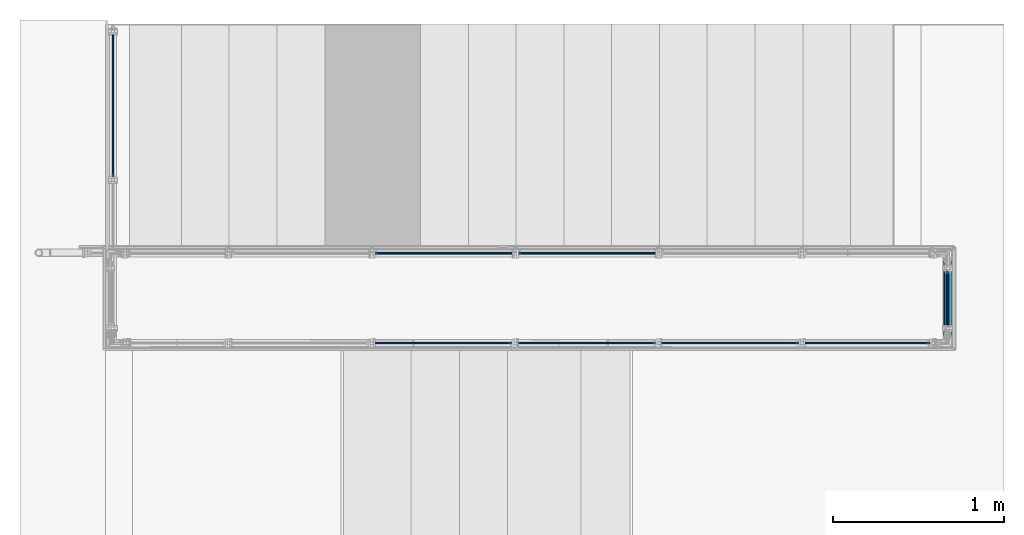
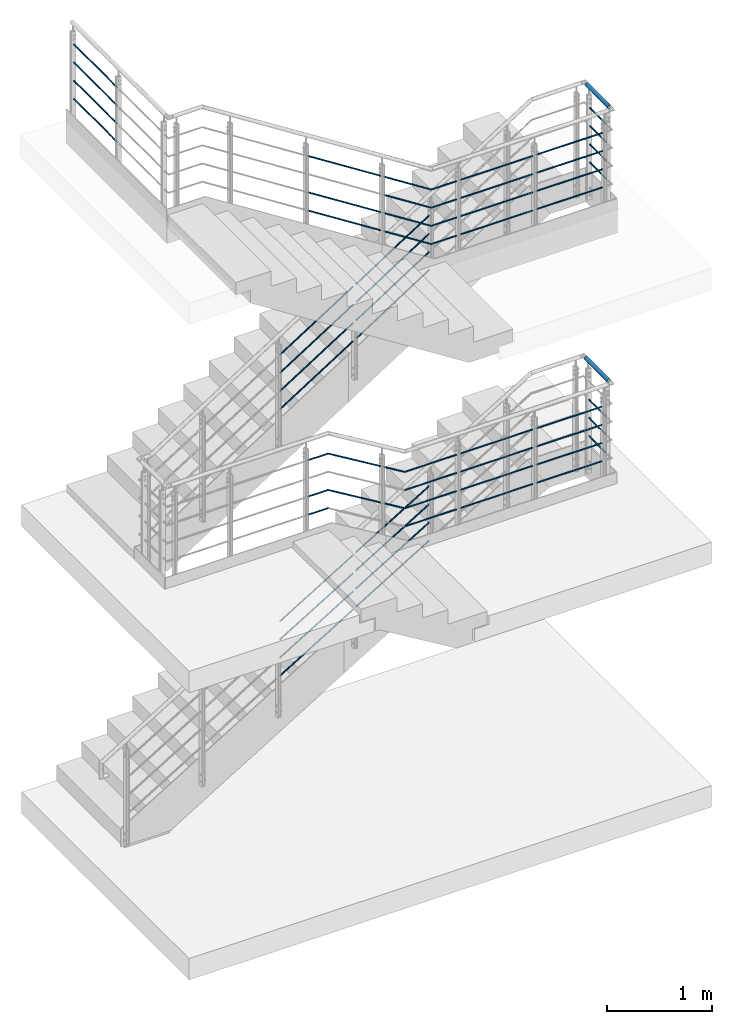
# One storey, part 13 of 98: 40 beams, 27 members.
"""IFC2X3 building model written with IfcOpenShell, lengths in millimetres."""

from ifc_helpers import new_model, entity, si_unit, converted_unit, frame, origin, origin_with_axes, origin_2d, place, context, project, spatial, circle, hollow_circle, extrude, clip, halfspace, material, element, save


model = new_model("IFC2X3")

# Units and contexts
model_context = context("Model", 3, precision=1e-09, world=origin_with_axes())
ifc_project = project(units=[si_unit("LENGTHUNIT", "METRE", prefix="MILLI"), si_unit("AREAUNIT", "SQUARE_METRE"), si_unit("VOLUMEUNIT", "CUBIC_METRE"), converted_unit("PLANEANGLEUNIT", "DEGREE", entity("IfcPlaneAngleMeasure", 0.01745329), si_unit("PLANEANGLEUNIT", "RADIAN"), dimensions=[0, 0, 0, 0, 0, 0, 0])], contexts=[model_context])

# Site, building, storey
site_placement = place(None, origin_with_axes())
site = spatial("IfcSite", under=ifc_project, at=site_placement, Name="Maybachstra?e 2, 71563 Affalterbach", CompositionType="ELEMENT")
building_placement = place(site_placement, origin_with_axes())
building = spatial("IfcBuilding", under=site, at=building_placement, Name="Struktur 1", CompositionType="ELEMENT")
storey_placement = place(building_placement, origin_with_axes())
storey = spatial("IfcBuildingStorey", under=building, at=storey_placement, Name="Default Storey", CompositionType="ELEMENT", Elevation=0.0)

# Beams
ifc_material_1 = material(Name="S235JR")
beam_1_placement = place(None, frame((7338.029157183, 1238.75, 8323.799999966), z_axis=(0.0, 1.0, 0.0), x_axis=(0.0, 0.0, 1.0)))
element("IfcBeam", 1, at=beam_1_placement, inside=storey, material=ifc_material_1, Name="-", ObjectType="-", context=model_context, shape_type="SweptSolid", body=[
    extrude(circle(Radius=6.0, at=origin_2d()), origin(), (0.0, 0.0, -1.0), 833.5),
])
beam_2_placement = place(None, frame((12231.032157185, -150.25, 6711.3), z_axis=(0.0, 1.0, 0.0), x_axis=(0.0, 0.0, 1.0)))
element("IfcBeam", 2, at=beam_2_placement, inside=storey, material=ifc_material_1, Name="-", ObjectType="-", context=model_context, shape_type="SweptSolid", body=[
    extrude(circle(Radius=6.0, at=origin_2d()), origin(), (0.0, 0.0, -1.0), 314.5),
])
beam_3_placement = place(None, frame((12224.032157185, -145.25, 3518.8), z_axis=(0.0, 1.0, 0.0), x_axis=(0.0, 0.0, 1.0)))
element("IfcBeam", 3, at=beam_3_placement, inside=storey, material=ifc_material_1, Name="-", ObjectType="-", context=model_context, shape_type="SweptSolid", body=[
    extrude(circle(Radius=6.0, at=origin_2d()), origin(), (0.0, 0.0, -1.0), 318.5),
])
beam_4_placement = place(None, frame((9936.320994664, -569.0, 3518.8), z_axis=(-1.0, 0.0, 0.0), x_axis=(0.0, 0.0, -1.0)))
element("IfcBeam", 4, at=beam_4_placement, inside=storey, material=ifc_material_1, Name="-", ObjectType="-", context=model_context, shape_type="Clipping", body=[
    clip(extrude(circle(Radius=6.0, at=origin_2d()), origin(), (0.0, 0.0, -1.0), 580.458162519), halfspace(frame((5833.433708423, -569.0, 1613.511984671), z_axis=(0.267938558, 0.0, -0.963436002), x_axis=(0.0, -1.0, 0.0)), True)),
])
beam_5_placement = place(None, frame((10553.279157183, -569.0, 3518.8), z_axis=(-1.0, 0.0, 0.0), x_axis=(0.0, 0.0, -1.0)))
element("IfcBeam", 5, at=beam_5_placement, inside=storey, material=ifc_material_1, Name="-", ObjectType="-", context=model_context, shape_type="SweptSolid", body=[
    extrude(circle(Radius=6.0, at=origin_2d()), origin(), (0.0, 0.0, -1.0), 803.5),
])
beam_6_placement = place(None, frame((11393.279157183, -569.0, 3518.8), z_axis=(-1.0, 0.0, 0.0), x_axis=(0.0, 0.0, -1.0)))
element("IfcBeam", 6, at=beam_6_placement, inside=storey, material=ifc_material_1, Name="-", ObjectType="-", context=model_context, shape_type="SweptSolid", body=[
    extrude(circle(Radius=6.0, at=origin_2d()), origin(), (0.0, 0.0, -1.0), 725.5),
])
beam_7_placement = place(None, frame((10553.279157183, -570.0, 6711.3), z_axis=(-1.0, 0.0, 0.0), x_axis=(0.0, 0.0, -1.0)))
element("IfcBeam", 7, at=beam_7_placement, inside=storey, material=ifc_material_1, Name="-", ObjectType="-", context=model_context, shape_type="SweptSolid", body=[
    extrude(circle(Radius=6.0, at=origin_2d()), origin(), (0.0, 0.0, -1.0), 803.5),
])
beam_8_placement = place(None, frame((11393.279157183, -570.0, 6711.3), z_axis=(-1.0, 0.0, 0.0), x_axis=(0.0, 0.0, -1.0)))
element("IfcBeam", 8, at=beam_8_placement, inside=storey, material=ifc_material_1, Name="-", ObjectType="-", context=model_context, shape_type="SweptSolid", body=[
    extrude(circle(Radius=6.0, at=origin_2d()), origin(), (0.0, 0.0, -1.0), 732.5),
])

# Members
member_1_placement = place(None, frame((10525.264438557, -40.0, 2836.867125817), z_axis=(0.854279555, 0.0, 0.519813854), x_axis=(0.0, 1.0, 0.0)))
element("IfcMember", 9, at=member_1_placement, inside=storey, material=ifc_material_1, Name="-", ObjectType="-", context=model_context, shape_type="Clipping", body=[
    clip(clip(extrude(circle(Radius=6.0, at=origin_2d()), origin(), (0.0, 0.0, -1.0), 960.423971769), halfspace(frame((40.0, -2419.066297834, -1481.892490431), z_axis=(0.0, 0.519813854, -0.854279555), x_axis=(-1.0, 0.0, 0.0)), True)), halfspace(frame((40.0, -2001.396905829, -2168.304403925), z_axis=(0.0, -0.519813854, 0.854279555), x_axis=(1.0, 0.0, 0.0)), True)),
])
member_2_placement = place(None, frame((9685.264438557, -40.0, 2325.742125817), z_axis=(0.854279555, 0.0, 0.519813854), x_axis=(0.0, 1.0, 0.0)))
element("IfcMember", 10, at=member_2_placement, inside=storey, material=ifc_material_1, Name="-", ObjectType="-", context=model_context, shape_type="Clipping", body=[
    clip(clip(extrude(circle(Radius=6.0, at=origin_2d()), origin(), (0.0, 0.0, -1.0), 960.423971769), halfspace(frame((40.0, -1982.422660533, -1216.202634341), z_axis=(0.0, 0.519813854, -0.854279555), x_axis=(-1.0, 0.0, 0.0)), True)), halfspace(frame((40.0, -1564.753268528, -1902.614547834), z_axis=(0.0, -0.519813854, 0.854279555), x_axis=(1.0, 0.0, 0.0)), True)),
])
member_3_placement = place(None, frame((8864.793875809, -45.0, 4938.496691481), z_axis=(-0.843537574, 0.0, -0.537070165), x_axis=(0.0, -1.0, 0.0)))
element("IfcMember", 11, at=member_3_placement, inside=storey, material=ifc_material_1, Name="-", ObjectType="-", context=model_context, shape_type="Clipping", body=[
    clip(clip(extrude(circle(Radius=6.0, at=origin_2d()), origin(), (0.0, 0.0, -1.0), 972.654435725), halfspace(frame((-45.0, -4601.900048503, 1967.379980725), z_axis=(0.0, 0.537070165, 0.843537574), x_axis=(1.0, 0.0, 0.0)), True)), halfspace(frame((-45.0, -4170.365245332, 2645.160734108), z_axis=(0.0, -0.537070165, -0.843537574), x_axis=(-1.0, 0.0, 0.0)), True)),
])
member_4_placement = place(None, frame((9704.793875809, -45.0, 5473.314525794), z_axis=(-0.843537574, 0.0, -0.537070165), x_axis=(0.0, -1.0, 0.0)))
element("IfcMember", 12, at=member_4_placement, inside=storey, material=ifc_material_1, Name="-", ObjectType="-", context=model_context, shape_type="Clipping", body=[
    clip(clip(extrude(circle(Radius=6.0, at=origin_2d()), origin(), (0.0, 0.0, -1.0), 972.654435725), halfspace(frame((-45.0, -5053.038986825, 2254.614683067), z_axis=(0.0, 0.537070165, 0.843537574), x_axis=(1.0, 0.0, 0.0)), True)), halfspace(frame((-45.0, -4621.504183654, 2932.39543645), z_axis=(0.0, -0.537070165, -0.843537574), x_axis=(-1.0, 0.0, 0.0)), True)),
])
member_5_placement = place(None, frame((9704.793875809, -570.0, 7050.566188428), z_axis=(-0.843071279, 0.0, 0.53780184), x_axis=(-0.53780184, 0.0, -0.843071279)))
element("IfcMember", 13, at=member_5_placement, inside=storey, material=ifc_material_1, Name="-", ObjectType="-", context=model_context, shape_type="Clipping", body=[
    clip(clip(extrude(circle(Radius=6.0, at=origin_2d()), origin(), (0.0, 0.0, -1.0), 639.67779714), halfspace(frame((8937.343206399, -570.0, -3238.723520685), z_axis=(0.280114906, 0.0, 0.959966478), x_axis=(0.0, 1.0, 0.0)), True)), halfspace(frame((5939.565916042, -570.0, -3798.962006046), z_axis=(-0.53780184, 0.0, -0.843071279), x_axis=(0.0, -1.0, 0.0)), True)),
])

# Beams
beam_9_placement = place(None, frame((10227.796683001, -570.0, 6711.3), z_axis=(-1.0, 0.0, 0.0), x_axis=(0.0, 0.0, -1.0)))
element("IfcBeam", 14, at=beam_9_placement, inside=storey, material=ifc_material_1, Name="-", ObjectType="-", context=model_context, shape_type="Clipping", body=[
    clip(extrude(circle(Radius=6.0, at=origin_2d()), origin(), (0.0, 0.0, -1.0), 288.982474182), halfspace(frame((8937.343206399, -570.0, 2599.045723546), z_axis=(0.280114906, 0.0, -0.959966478), x_axis=(0.0, -1.0, 0.0)), True)),
])
beam_10_placement = place(None, frame((7338.029157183, 1238.75, 7899.799999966), z_axis=(0.0, 1.0, 0.0), x_axis=(0.0, 0.0, 1.0)))
element("IfcBeam", 15, at=beam_10_placement, inside=storey, material=ifc_material_1, Name="-", ObjectType="-", context=model_context, shape_type="SweptSolid", body=[
    extrude(circle(Radius=6.0, at=origin_2d()), origin(), (0.0, 0.0, -1.0), 833.5),
])
beam_11_placement = place(None, frame((12231.032157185, -150.25, 6287.3), z_axis=(0.0, 1.0, 0.0), x_axis=(0.0, 0.0, 1.0)))
element("IfcBeam", 16, at=beam_11_placement, inside=storey, material=ifc_material_1, Name="-", ObjectType="-", context=model_context, shape_type="SweptSolid", body=[
    extrude(circle(Radius=6.0, at=origin_2d()), origin(), (0.0, 0.0, -1.0), 314.5),
])
beam_12_placement = place(None, frame((12224.032157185, -145.25, 3094.8), z_axis=(0.0, 1.0, 0.0), x_axis=(0.0, 0.0, 1.0)))
element("IfcBeam", 17, at=beam_12_placement, inside=storey, material=ifc_material_1, Name="-", ObjectType="-", context=model_context, shape_type="SweptSolid", body=[
    extrude(circle(Radius=6.0, at=origin_2d()), origin(), (0.0, 0.0, -1.0), 318.5),
])
beam_13_placement = place(None, frame((9936.320994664, -569.0, 3094.8), z_axis=(-1.0, 0.0, 0.0), x_axis=(0.0, 0.0, -1.0)))
element("IfcBeam", 18, at=beam_13_placement, inside=storey, material=ifc_material_1, Name="-", ObjectType="-", context=model_context, shape_type="Clipping", body=[
    clip(extrude(circle(Radius=6.0, at=origin_2d()), origin(), (0.0, 0.0, -1.0), 580.458162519), halfspace(frame((5439.873122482, -569.0, 1504.059923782), z_axis=(0.267938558, 0.0, -0.963436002), x_axis=(0.0, -1.0, 0.0)), True)),
])
beam_14_placement = place(None, frame((10553.279157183, -569.0, 3094.8), z_axis=(-1.0, 0.0, 0.0), x_axis=(0.0, 0.0, -1.0)))
element("IfcBeam", 19, at=beam_14_placement, inside=storey, material=ifc_material_1, Name="-", ObjectType="-", context=model_context, shape_type="SweptSolid", body=[
    extrude(circle(Radius=6.0, at=origin_2d()), origin(), (0.0, 0.0, -1.0), 803.5),
])
beam_15_placement = place(None, frame((11393.279157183, -569.0, 3094.8), z_axis=(-1.0, 0.0, 0.0), x_axis=(0.0, 0.0, -1.0)))
element("IfcBeam", 20, at=beam_15_placement, inside=storey, material=ifc_material_1, Name="-", ObjectType="-", context=model_context, shape_type="SweptSolid", body=[
    extrude(circle(Radius=6.0, at=origin_2d()), origin(), (0.0, 0.0, -1.0), 725.5),
])
beam_16_placement = place(None, frame((10553.279157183, -570.0, 6287.3), z_axis=(-1.0, 0.0, 0.0), x_axis=(0.0, 0.0, -1.0)))
element("IfcBeam", 21, at=beam_16_placement, inside=storey, material=ifc_material_1, Name="-", ObjectType="-", context=model_context, shape_type="SweptSolid", body=[
    extrude(circle(Radius=6.0, at=origin_2d()), origin(), (0.0, 0.0, -1.0), 803.5),
])
beam_17_placement = place(None, frame((11393.279157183, -570.0, 6287.3), z_axis=(-1.0, 0.0, 0.0), x_axis=(0.0, 0.0, -1.0)))
element("IfcBeam", 22, at=beam_17_placement, inside=storey, material=ifc_material_1, Name="-", ObjectType="-", context=model_context, shape_type="SweptSolid", body=[
    extrude(circle(Radius=6.0, at=origin_2d()), origin(), (0.0, 0.0, -1.0), 732.5),
])

# Members
member_6_placement = place(None, frame((8864.793875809, -570.0, 7162.40883483), z_axis=(-0.843071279, 0.0, 0.53780184), x_axis=(-0.53780184, 0.0, -0.843071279)))
element("IfcMember", 23, at=member_6_placement, inside=storey, material=ifc_material_1, Name="-", ObjectType="-", context=model_context, shape_type="Clipping", body=[
    clip(clip(extrude(circle(Radius=6.0, at=origin_2d()), origin(), (0.0, 0.0, -1.0), 973.192401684), halfspace(frame((6033.857238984, -570.0, -3859.111187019), z_axis=(-0.53780184, 0.0, -0.843071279), x_axis=(0.0, -1.0, 0.0)), True)), halfspace(frame((5601.734536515, -570.0, -4536.51727351), z_axis=(0.53780184, 0.0, 0.843071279), x_axis=(0.0, 1.0, 0.0)), True)),
])
member_7_placement = place(None, frame((10525.264438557, -40.0, 2412.867125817), z_axis=(0.854279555, 0.0, 0.519813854), x_axis=(0.0, 1.0, 0.0)))
element("IfcMember", 24, at=member_7_placement, inside=storey, material=ifc_material_1, Name="-", ObjectType="-", context=model_context, shape_type="Clipping", body=[
    clip(clip(extrude(circle(Radius=6.0, at=origin_2d()), origin(), (0.0, 0.0, -1.0), 960.423971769), halfspace(frame((40.0, -2056.85176672, -1261.491416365), z_axis=(0.0, 0.519813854, -0.854279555), x_axis=(-1.0, 0.0, 0.0)), True)), halfspace(frame((40.0, -1639.182374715, -1947.903329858), z_axis=(0.0, -0.519813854, 0.854279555), x_axis=(1.0, 0.0, 0.0)), True)),
])
member_8_placement = place(None, frame((9685.264438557, -40.0, 1901.742125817), z_axis=(0.854279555, 0.0, 0.519813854), x_axis=(0.0, 1.0, 0.0)))
element("IfcMember", 25, at=member_8_placement, inside=storey, material=ifc_material_1, Name="-", ObjectType="-", context=model_context, shape_type="Clipping", body=[
    clip(clip(extrude(circle(Radius=6.0, at=origin_2d()), origin(), (0.0, 0.0, -1.0), 960.423971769), halfspace(frame((40.0, -1620.208129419, -995.801560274), z_axis=(0.0, 0.519813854, -0.854279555), x_axis=(-1.0, 0.0, 0.0)), True)), halfspace(frame((40.0, -1202.538737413, -1682.213473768), z_axis=(0.0, -0.519813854, 0.854279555), x_axis=(1.0, 0.0, 0.0)), True)),
])
member_9_placement = place(None, frame((8864.793875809, -45.0, 4514.496691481), z_axis=(-0.843537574, 0.0, -0.537070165), x_axis=(0.0, -1.0, 0.0)))
element("IfcMember", 26, at=member_9_placement, inside=storey, material=ifc_material_1, Name="-", ObjectType="-", context=model_context, shape_type="Clipping", body=[
    clip(clip(extrude(circle(Radius=6.0, at=origin_2d()), origin(), (0.0, 0.0, -1.0), 972.654435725), halfspace(frame((-45.0, -4244.24011726, 1739.662230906), z_axis=(0.0, 0.537070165, 0.843537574), x_axis=(1.0, 0.0, 0.0)), True)), halfspace(frame((-45.0, -3812.705314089, 2417.442984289), z_axis=(0.0, -0.537070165, -0.843537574), x_axis=(-1.0, 0.0, 0.0)), True)),
])
member_10_placement = place(None, frame((9704.793875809, -45.0, 5049.314525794), z_axis=(-0.843537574, 0.0, -0.537070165), x_axis=(0.0, -1.0, 0.0)))
element("IfcMember", 27, at=member_10_placement, inside=storey, material=ifc_material_1, Name="-", ObjectType="-", context=model_context, shape_type="Clipping", body=[
    clip(clip(extrude(circle(Radius=6.0, at=origin_2d()), origin(), (0.0, 0.0, -1.0), 972.654435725), halfspace(frame((-45.0, -4695.379055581, 2026.896933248), z_axis=(0.0, 0.537070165, 0.843537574), x_axis=(1.0, 0.0, 0.0)), True)), halfspace(frame((-45.0, -4263.84425241, 2704.677686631), z_axis=(0.0, -0.537070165, -0.843537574), x_axis=(-1.0, 0.0, 0.0)), True)),
])

# Beam
beam_18_placement = place(None, frame((8873.279157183, -569.0, 3604.8), z_axis=(-1.0, 0.0, 0.0), x_axis=(0.0, 0.0, -1.0)))
element("IfcBeam", 28, at=beam_18_placement, inside=storey, material=ifc_material_1, Name="-", ObjectType="-", context=model_context, shape_type="Clipping", body=[
    clip(extrude(circle(Radius=6.0, at=origin_2d()), origin(), (0.0, 0.0, -1.0), 234.661437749), halfspace(frame((5694.872586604, -569.0, 1357.932391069), z_axis=(-0.267938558, 0.0, 0.963436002), x_axis=(0.0, 1.0, 0.0)), True)),
])

# Member
member_11_placement = place(None, frame((9704.793875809, -570.0, 6626.566188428), z_axis=(-0.843071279, 0.0, 0.53780184), x_axis=(-0.53780184, 0.0, -0.843071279)))
element("IfcMember", 29, at=member_11_placement, inside=storey, material=ifc_material_1, Name="-", ObjectType="-", context=model_context, shape_type="Clipping", body=[
    clip(clip(extrude(circle(Radius=6.0, at=origin_2d()), origin(), (0.0, 0.0, -1.0), 639.67779714), halfspace(frame((8546.612095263, -570.0, -3124.709530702), z_axis=(0.280114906, 0.0, 0.959966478), x_axis=(0.0, 1.0, 0.0)), True)), halfspace(frame((5582.103693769, -570.0, -3570.93402608), z_axis=(-0.53780184, 0.0, -0.843071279), x_axis=(0.0, -1.0, 0.0)), True)),
])

# Beams
beam_19_placement = place(None, frame((10227.796683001, -570.0, 6287.3), z_axis=(-1.0, 0.0, 0.0), x_axis=(0.0, 0.0, -1.0)))
element("IfcBeam", 30, at=beam_19_placement, inside=storey, material=ifc_material_1, Name="-", ObjectType="-", context=model_context, shape_type="Clipping", body=[
    clip(extrude(circle(Radius=6.0, at=origin_2d()), origin(), (0.0, 0.0, -1.0), 288.982474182), halfspace(frame((8546.612095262, -570.0, 2485.031733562), z_axis=(0.280114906, 0.0, -0.959966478), x_axis=(0.0, -1.0, 0.0)), True)),
])
beam_20_placement = place(None, frame((7338.029157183, 1238.75, 8111.799999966), z_axis=(0.0, 1.0, 0.0), x_axis=(0.0, 0.0, 1.0)))
element("IfcBeam", 31, at=beam_20_placement, inside=storey, material=ifc_material_1, Name="-", ObjectType="-", context=model_context, shape_type="SweptSolid", body=[
    extrude(circle(Radius=6.0, at=origin_2d()), origin(), (0.0, 0.0, -1.0), 833.5),
])
beam_21_placement = place(None, frame((12231.032157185, -150.25, 6499.3), z_axis=(0.0, 1.0, 0.0), x_axis=(0.0, 0.0, 1.0)))
element("IfcBeam", 32, at=beam_21_placement, inside=storey, material=ifc_material_1, Name="-", ObjectType="-", context=model_context, shape_type="SweptSolid", body=[
    extrude(circle(Radius=6.0, at=origin_2d()), origin(), (0.0, 0.0, -1.0), 314.5),
])
beam_22_placement = place(None, frame((12224.032157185, -145.25, 3306.8), z_axis=(0.0, 1.0, 0.0), x_axis=(0.0, 0.0, 1.0)))
element("IfcBeam", 33, at=beam_22_placement, inside=storey, material=ifc_material_1, Name="-", ObjectType="-", context=model_context, shape_type="SweptSolid", body=[
    extrude(circle(Radius=6.0, at=origin_2d()), origin(), (0.0, 0.0, -1.0), 318.5),
])

# Members
member_12_placement = place(None, frame((9091.590543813, -569.0, 3821.347068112), z_axis=(-0.856417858, 0.0, 0.516283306), x_axis=(-0.516283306, 0.0, -0.856417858)))
element("IfcMember", 34, at=member_12_placement, inside=storey, material=ifc_material_1, Name="-", ObjectType="-", context=model_context, shape_type="Clipping", body=[
    clip(clip(extrude(circle(Radius=6.0, at=origin_2d()), origin(), (0.0, 0.0, -1.0), 693.205879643), halfspace(frame((5891.652879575, -569.0, -1647.319859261), z_axis=(-0.267938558, 0.0, -0.963436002), x_axis=(0.0, -1.0, 0.0)), True)), halfspace(frame((2970.547275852, -569.0, -2474.062820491), z_axis=(0.516283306, 0.0, 0.856417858), x_axis=(0.0, 1.0, 0.0)), True)),
])
member_13_placement = place(None, frame((9704.793875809, -569.0, 3451.683310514), z_axis=(-0.856417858, 0.0, 0.516283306), x_axis=(-0.516283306, 0.0, -0.856417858)))
element("IfcMember", 35, at=member_13_placement, inside=storey, material=ifc_material_1, Name="-", ObjectType="-", context=model_context, shape_type="Clipping", body=[
    clip(clip(extrude(circle(Radius=6.0, at=origin_2d()), origin(), (0.0, 0.0, -1.0), 289.434844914), halfspace(frame((5636.653415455, -569.0, -1848.220799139), z_axis=(0.267938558, 0.0, 0.963436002), x_axis=(0.0, 1.0, 0.0)), True)), halfspace(frame((2951.701902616, -569.0, -1789.314274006), z_axis=(-0.516283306, 0.0, -0.856417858), x_axis=(0.0, -1.0, 0.0)), True)),
])

# Beams
beam_23_placement = place(None, frame((9936.320994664, -569.0, 3306.8), z_axis=(-1.0, 0.0, 0.0), x_axis=(0.0, 0.0, -1.0)))
element("IfcBeam", 36, at=beam_23_placement, inside=storey, material=ifc_material_1, Name="-", ObjectType="-", context=model_context, shape_type="Clipping", body=[
    clip(extrude(circle(Radius=6.0, at=origin_2d()), origin(), (0.0, 0.0, -1.0), 580.458162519), halfspace(frame((5636.653415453, -569.0, 1558.785954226), z_axis=(0.267938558, 0.0, -0.963436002), x_axis=(0.0, -1.0, 0.0)), True)),
])
beam_24_placement = place(None, frame((10553.279157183, -569.0, 3306.8), z_axis=(-1.0, 0.0, 0.0), x_axis=(0.0, 0.0, -1.0)))
element("IfcBeam", 37, at=beam_24_placement, inside=storey, material=ifc_material_1, Name="-", ObjectType="-", context=model_context, shape_type="SweptSolid", body=[
    extrude(circle(Radius=6.0, at=origin_2d()), origin(), (0.0, 0.0, -1.0), 803.5),
])
beam_25_placement = place(None, frame((11393.279157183, -569.0, 3306.8), z_axis=(-1.0, 0.0, 0.0), x_axis=(0.0, 0.0, -1.0)))
element("IfcBeam", 38, at=beam_25_placement, inside=storey, material=ifc_material_1, Name="-", ObjectType="-", context=model_context, shape_type="SweptSolid", body=[
    extrude(circle(Radius=6.0, at=origin_2d()), origin(), (0.0, 0.0, -1.0), 725.5),
])
beam_26_placement = place(None, frame((10553.279157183, -570.0, 6499.3), z_axis=(-1.0, 0.0, 0.0), x_axis=(0.0, 0.0, -1.0)))
element("IfcBeam", 39, at=beam_26_placement, inside=storey, material=ifc_material_1, Name="-", ObjectType="-", context=model_context, shape_type="SweptSolid", body=[
    extrude(circle(Radius=6.0, at=origin_2d()), origin(), (0.0, 0.0, -1.0), 803.5),
])
beam_27_placement = place(None, frame((11393.279157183, -570.0, 6499.3), z_axis=(-1.0, 0.0, 0.0), x_axis=(0.0, 0.0, -1.0)))
element("IfcBeam", 40, at=beam_27_placement, inside=storey, material=ifc_material_1, Name="-", ObjectType="-", context=model_context, shape_type="SweptSolid", body=[
    extrude(circle(Radius=6.0, at=origin_2d()), origin(), (0.0, 0.0, -1.0), 732.5),
])

# Members
member_14_placement = place(None, frame((8864.793875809, -570.0, 7374.40883483), z_axis=(-0.843071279, 0.0, 0.53780184), x_axis=(-0.53780184, 0.0, -0.843071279)))
element("IfcMember", 41, at=member_14_placement, inside=storey, material=ifc_material_1, Name="-", ObjectType="-", context=model_context, shape_type="Clipping", body=[
    clip(clip(extrude(circle(Radius=6.0, at=origin_2d()), origin(), (0.0, 0.0, -1.0), 973.192401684), halfspace(frame((6212.58835012, -570.0, -3973.125177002), z_axis=(-0.53780184, 0.0, -0.843071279), x_axis=(0.0, -1.0, 0.0)), True)), halfspace(frame((5780.465647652, -570.0, -4650.531263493), z_axis=(0.53780184, 0.0, 0.843071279), x_axis=(0.0, 1.0, 0.0)), True)),
])
member_15_placement = place(None, frame((10525.264438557, -40.0, 2624.867125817), z_axis=(0.854279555, 0.0, 0.519813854), x_axis=(0.0, 1.0, 0.0)))
element("IfcMember", 42, at=member_15_placement, inside=storey, material=ifc_material_1, Name="-", ObjectType="-", context=model_context, shape_type="Clipping", body=[
    clip(clip(extrude(circle(Radius=6.0, at=origin_2d()), origin(), (0.0, 0.0, -1.0), 960.423971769), halfspace(frame((40.0, -2237.959032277, -1371.691953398), z_axis=(0.0, 0.519813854, -0.854279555), x_axis=(-1.0, 0.0, 0.0)), True)), halfspace(frame((40.0, -1820.289640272, -2058.103866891), z_axis=(0.0, -0.519813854, 0.854279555), x_axis=(1.0, 0.0, 0.0)), True)),
])
member_16_placement = place(None, frame((9685.264438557, -40.0, 2113.742125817), z_axis=(0.854279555, 0.0, 0.519813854), x_axis=(0.0, 1.0, 0.0)))
element("IfcMember", 43, at=member_16_placement, inside=storey, material=ifc_material_1, Name="-", ObjectType="-", context=model_context, shape_type="Clipping", body=[
    clip(clip(extrude(circle(Radius=6.0, at=origin_2d()), origin(), (0.0, 0.0, -1.0), 960.423971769), halfspace(frame((40.0, -1801.315394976, -1106.002097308), z_axis=(0.0, 0.519813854, -0.854279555), x_axis=(-1.0, 0.0, 0.0)), True)), halfspace(frame((40.0, -1383.646002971, -1792.414010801), z_axis=(0.0, -0.519813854, 0.854279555), x_axis=(1.0, 0.0, 0.0)), True)),
])
member_17_placement = place(None, frame((8864.793875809, -45.0, 4726.496691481), z_axis=(-0.843537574, 0.0, -0.537070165), x_axis=(0.0, -1.0, 0.0)))
element("IfcMember", 44, at=member_17_placement, inside=storey, material=ifc_material_1, Name="-", ObjectType="-", context=model_context, shape_type="Clipping", body=[
    clip(clip(extrude(circle(Radius=6.0, at=origin_2d()), origin(), (0.0, 0.0, -1.0), 972.654435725), halfspace(frame((-45.0, -4423.070082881, 1853.521105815), z_axis=(0.0, 0.537070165, 0.843537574), x_axis=(1.0, 0.0, 0.0)), True)), halfspace(frame((-45.0, -3991.535279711, 2531.301859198), z_axis=(0.0, -0.537070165, -0.843537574), x_axis=(-1.0, 0.0, 0.0)), True)),
])
member_18_placement = place(None, frame((9704.793875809, -45.0, 5261.314525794), z_axis=(-0.843537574, 0.0, -0.537070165), x_axis=(0.0, -1.0, 0.0)))
element("IfcMember", 45, at=member_18_placement, inside=storey, material=ifc_material_1, Name="-", ObjectType="-", context=model_context, shape_type="Clipping", body=[
    clip(clip(extrude(circle(Radius=6.0, at=origin_2d()), origin(), (0.0, 0.0, -1.0), 972.654435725), halfspace(frame((-45.0, -4874.209021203, 2140.755808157), z_axis=(0.0, 0.537070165, 0.843537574), x_axis=(1.0, 0.0, 0.0)), True)), halfspace(frame((-45.0, -4442.674218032, 2818.53656154), z_axis=(0.0, -0.537070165, -0.843537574), x_axis=(-1.0, 0.0, 0.0)), True)),
])

# Beam
beam_28_placement = place(None, frame((8873.279157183, -569.0, 3816.8), z_axis=(-1.0, 0.0, 0.0), x_axis=(0.0, 0.0, -1.0)))
element("IfcBeam", 46, at=beam_28_placement, inside=storey, material=ifc_material_1, Name="-", ObjectType="-", context=model_context, shape_type="Clipping", body=[
    clip(extrude(circle(Radius=6.0, at=origin_2d()), origin(), (0.0, 0.0, -1.0), 234.661437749), halfspace(frame((5891.652879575, -569.0, 1412.658421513), z_axis=(-0.267938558, 0.0, 0.963436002), x_axis=(0.0, 1.0, 0.0)), True)),
])

# Member
member_19_placement = place(None, frame((9704.793875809, -570.0, 6838.566188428), z_axis=(-0.843071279, 0.0, 0.53780184), x_axis=(-0.53780184, 0.0, -0.843071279)))
element("IfcMember", 47, at=member_19_placement, inside=storey, material=ifc_material_1, Name="-", ObjectType="-", context=model_context, shape_type="Clipping", body=[
    clip(clip(extrude(circle(Radius=6.0, at=origin_2d()), origin(), (0.0, 0.0, -1.0), 639.67779714), halfspace(frame((8741.977650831, -570.0, -3181.716525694), z_axis=(0.280114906, 0.0, 0.959966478), x_axis=(0.0, 1.0, 0.0)), True)), halfspace(frame((5760.834804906, -570.0, -3684.948016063), z_axis=(-0.53780184, 0.0, -0.843071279), x_axis=(0.0, -1.0, 0.0)), True)),
])

# Beams
beam_29_placement = place(None, frame((10227.796683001, -570.0, 6499.3), z_axis=(-1.0, 0.0, 0.0), x_axis=(0.0, 0.0, -1.0)))
element("IfcBeam", 48, at=beam_29_placement, inside=storey, material=ifc_material_1, Name="-", ObjectType="-", context=model_context, shape_type="Clipping", body=[
    clip(extrude(circle(Radius=6.0, at=origin_2d()), origin(), (0.0, 0.0, -1.0), 288.982474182), halfspace(frame((8741.97765083, -570.0, 2542.038728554), z_axis=(0.280114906, 0.0, -0.959966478), x_axis=(0.0, -1.0, 0.0)), True)),
])
ifc_material_2 = material(Name="1.4301")
beam_30_placement = place(None, frame((12224.032157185, -83.8, 3968.8), z_axis=(0.0, 1.0, 0.0), x_axis=(0.0, 0.0, 1.0)))
element("IfcBeam", 49, at=beam_30_placement, inside=storey, material=ifc_material_2, Name="Hand_Rail", ObjectType="Hand_Rail", context=model_context, shape_type="SweptSolid", body=[
    extrude(hollow_circle(Radius=21.2, WallThickness=3.0, at=origin_2d()), origin(), (0.0, 0.0, -1.0), 441.4),
])
beam_31_placement = place(None, frame((12231.032157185, -88.8, 7161.3), z_axis=(0.0, 1.0, 0.0), x_axis=(0.0, 0.0, 1.0)))
element("IfcBeam", 50, at=beam_31_placement, inside=storey, material=ifc_material_2, Name="Hand_Rail", ObjectType="Hand_Rail", context=model_context, shape_type="SweptSolid", body=[
    extrude(hollow_circle(Radius=21.2, WallThickness=3.0, at=origin_2d()), origin(), (0.0, 0.0, -1.0), 437.4),
])

# Members
member_20_placement = place(None, frame((8864.793875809, -570.0, 7798.40883483), z_axis=(-0.843071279, 0.0, 0.53780184), x_axis=(-0.53780184, 0.0, -0.843071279)))
element("IfcMember", 51, at=member_20_placement, inside=storey, material=ifc_material_1, Name="-", ObjectType="-", context=model_context, shape_type="Clipping", body=[
    clip(clip(extrude(circle(Radius=6.0, at=origin_2d()), origin(), (0.0, 0.0, -1.0), 973.192401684), halfspace(frame((6570.050572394, -570.0, -4201.153156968), z_axis=(-0.53780184, 0.0, -0.843071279), x_axis=(0.0, -1.0, 0.0)), True)), halfspace(frame((6137.927869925, -570.0, -4878.559243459), z_axis=(0.53780184, 0.0, 0.843071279), x_axis=(0.0, 1.0, 0.0)), True)),
])
member_21_placement = place(None, frame((9704.793875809, -570.0, 7262.566188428), z_axis=(-0.843071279, 0.0, 0.53780184), x_axis=(-0.53780184, 0.0, -0.843071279)))
element("IfcMember", 52, at=member_21_placement, inside=storey, material=ifc_material_1, Name="-", ObjectType="-", context=model_context, shape_type="Clipping", body=[
    clip(clip(extrude(circle(Radius=6.0, at=origin_2d()), origin(), (0.0, 0.0, -1.0), 639.67779714), halfspace(frame((9132.708761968, -570.0, -3295.730515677), z_axis=(0.280114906, 0.0, 0.959966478), x_axis=(0.0, 1.0, 0.0)), True)), halfspace(frame((6118.297027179, -570.0, -3912.975996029), z_axis=(-0.53780184, 0.0, -0.843071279), x_axis=(0.0, -1.0, 0.0)), True)),
])

# Beams
beam_32_placement = place(None, frame((10227.796683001, -570.0, 6923.3), z_axis=(-1.0, 0.0, 0.0), x_axis=(0.0, 0.0, -1.0)))
element("IfcBeam", 53, at=beam_32_placement, inside=storey, material=ifc_material_1, Name="-", ObjectType="-", context=model_context, shape_type="Clipping", body=[
    clip(extrude(circle(Radius=6.0, at=origin_2d()), origin(), (0.0, 0.0, -1.0), 288.982474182), halfspace(frame((9132.708761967, -570.0, 2656.052718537), z_axis=(0.280114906, 0.0, -0.959966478), x_axis=(0.0, -1.0, 0.0)), True)),
])
beam_33_placement = place(None, frame((10553.279157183, -570.0, 6923.3), z_axis=(-1.0, 0.0, 0.0), x_axis=(0.0, 0.0, -1.0)))
element("IfcBeam", 54, at=beam_33_placement, inside=storey, material=ifc_material_1, Name="-", ObjectType="-", context=model_context, shape_type="SweptSolid", body=[
    extrude(circle(Radius=6.0, at=origin_2d()), origin(), (0.0, 0.0, -1.0), 803.5),
])
beam_34_placement = place(None, frame((11393.279157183, -570.0, 6923.3), z_axis=(-1.0, 0.0, 0.0), x_axis=(0.0, 0.0, -1.0)))
element("IfcBeam", 55, at=beam_34_placement, inside=storey, material=ifc_material_1, Name="-", ObjectType="-", context=model_context, shape_type="SweptSolid", body=[
    extrude(circle(Radius=6.0, at=origin_2d()), origin(), (0.0, 0.0, -1.0), 732.5),
])

# Members
member_22_placement = place(None, frame((8864.793875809, -45.0, 5150.496691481), z_axis=(-0.843537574, 0.0, -0.537070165), x_axis=(0.0, -1.0, 0.0)))
element("IfcMember", 56, at=member_22_placement, inside=storey, material=ifc_material_1, Name="-", ObjectType="-", context=model_context, shape_type="Clipping", body=[
    clip(clip(extrude(circle(Radius=6.0, at=origin_2d()), origin(), (0.0, 0.0, -1.0), 972.654435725), halfspace(frame((-45.0, -4780.730014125, 2081.238855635), z_axis=(0.0, 0.537070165, 0.843537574), x_axis=(1.0, 0.0, 0.0)), True)), halfspace(frame((-45.0, -4349.195210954, 2759.019609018), z_axis=(0.0, -0.537070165, -0.843537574), x_axis=(-1.0, 0.0, 0.0)), True)),
])
member_23_placement = place(None, frame((9704.793875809, -45.0, 5685.314525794), z_axis=(-0.843537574, 0.0, -0.537070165), x_axis=(0.0, -1.0, 0.0)))
element("IfcMember", 57, at=member_23_placement, inside=storey, material=ifc_material_1, Name="-", ObjectType="-", context=model_context, shape_type="Clipping", body=[
    clip(clip(extrude(circle(Radius=6.0, at=origin_2d()), origin(), (0.0, 0.0, -1.0), 972.654435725), halfspace(frame((-45.0, -5231.868952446, 2368.473557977), z_axis=(0.0, 0.537070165, 0.843537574), x_axis=(1.0, 0.0, 0.0)), True)), halfspace(frame((-45.0, -4800.334149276, 3046.25431136), z_axis=(0.0, -0.537070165, -0.843537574), x_axis=(-1.0, 0.0, 0.0)), True)),
])

# Beam
beam_35_placement = place(None, frame((8873.279157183, -569.0, 4240.8), z_axis=(-1.0, 0.0, 0.0), x_axis=(0.0, 0.0, -1.0)))
element("IfcBeam", 58, at=beam_35_placement, inside=storey, material=ifc_material_1, Name="-", ObjectType="-", context=model_context, shape_type="Clipping", body=[
    clip(extrude(circle(Radius=6.0, at=origin_2d()), origin(), (0.0, 0.0, -1.0), 234.661437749), halfspace(frame((6285.213465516, -569.0, 1522.110482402), z_axis=(-0.267938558, 0.0, 0.963436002), x_axis=(0.0, 1.0, 0.0)), True)),
])

# Members
member_24_placement = place(None, frame((9091.590543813, -569.0, 4245.347068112), z_axis=(-0.856417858, 0.0, 0.516283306), x_axis=(-0.516283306, 0.0, -0.856417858)))
element("IfcMember", 59, at=member_24_placement, inside=storey, material=ifc_material_1, Name="-", ObjectType="-", context=model_context, shape_type="Clipping", body=[
    clip(clip(extrude(circle(Radius=6.0, at=origin_2d()), origin(), (0.0, 0.0, -1.0), 693.205879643), halfspace(frame((6285.213465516, -569.0, -1756.77192015), z_axis=(-0.267938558, 0.0, -0.963436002), x_axis=(0.0, -1.0, 0.0)), True)), halfspace(frame((3333.668447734, -569.0, -2692.966942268), z_axis=(0.516283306, 0.0, 0.856417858), x_axis=(0.0, 1.0, 0.0)), True)),
])
member_25_placement = place(None, frame((9704.793875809, -569.0, 3875.683310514), z_axis=(-0.856417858, 0.0, 0.516283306), x_axis=(-0.516283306, 0.0, -0.856417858)))
element("IfcMember", 60, at=member_25_placement, inside=storey, material=ifc_material_1, Name="-", ObjectType="-", context=model_context, shape_type="Clipping", body=[
    clip(clip(extrude(circle(Radius=6.0, at=origin_2d()), origin(), (0.0, 0.0, -1.0), 289.434844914), halfspace(frame((6030.214001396, -569.0, -1957.672860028), z_axis=(0.267938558, 0.0, 0.963436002), x_axis=(0.0, 1.0, 0.0)), True)), halfspace(frame((3314.823074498, -569.0, -2008.218395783), z_axis=(-0.516283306, 0.0, -0.856417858), x_axis=(0.0, -1.0, 0.0)), True)),
])

# Beams
beam_36_placement = place(None, frame((9936.320994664, -569.0, 3730.8), z_axis=(-1.0, 0.0, 0.0), x_axis=(0.0, 0.0, -1.0)))
element("IfcBeam", 61, at=beam_36_placement, inside=storey, material=ifc_material_1, Name="-", ObjectType="-", context=model_context, shape_type="Clipping", body=[
    clip(extrude(circle(Radius=6.0, at=origin_2d()), origin(), (0.0, 0.0, -1.0), 580.458162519), halfspace(frame((6030.214001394, -569.0, 1668.238015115), z_axis=(0.267938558, 0.0, -0.963436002), x_axis=(0.0, -1.0, 0.0)), True)),
])
beam_37_placement = place(None, frame((10553.279157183, -569.0, 3730.8), z_axis=(-1.0, 0.0, 0.0), x_axis=(0.0, 0.0, -1.0)))
element("IfcBeam", 62, at=beam_37_placement, inside=storey, material=ifc_material_1, Name="-", ObjectType="-", context=model_context, shape_type="SweptSolid", body=[
    extrude(circle(Radius=6.0, at=origin_2d()), origin(), (0.0, 0.0, -1.0), 803.5),
])
beam_38_placement = place(None, frame((11393.279157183, -569.0, 3730.8), z_axis=(-1.0, 0.0, 0.0), x_axis=(0.0, 0.0, -1.0)))
element("IfcBeam", 63, at=beam_38_placement, inside=storey, material=ifc_material_1, Name="-", ObjectType="-", context=model_context, shape_type="SweptSolid", body=[
    extrude(circle(Radius=6.0, at=origin_2d()), origin(), (0.0, 0.0, -1.0), 725.5),
])

# Members
member_26_placement = place(None, frame((10525.264438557, -40.0, 3048.867125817), z_axis=(0.854279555, 0.0, 0.519813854), x_axis=(0.0, 1.0, 0.0)))
element("IfcMember", 64, at=member_26_placement, inside=storey, material=ifc_material_1, Name="-", ObjectType="-", context=model_context, shape_type="Clipping", body=[
    clip(clip(extrude(circle(Radius=6.0, at=origin_2d()), origin(), (0.0, 0.0, -1.0), 960.423971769), halfspace(frame((40.0, -2600.173563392, -1592.093027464), z_axis=(0.0, 0.519813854, -0.854279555), x_axis=(-1.0, 0.0, 0.0)), True)), halfspace(frame((40.0, -2182.504171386, -2278.504940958), z_axis=(0.0, -0.519813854, 0.854279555), x_axis=(1.0, 0.0, 0.0)), True)),
])
member_27_placement = place(None, frame((9685.264438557, -40.0, 2537.742125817), z_axis=(0.854279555, 0.0, 0.519813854), x_axis=(0.0, 1.0, 0.0)))
element("IfcMember", 65, at=member_27_placement, inside=storey, material=ifc_material_1, Name="-", ObjectType="-", context=model_context, shape_type="Clipping", body=[
    clip(clip(extrude(circle(Radius=6.0, at=origin_2d()), origin(), (0.0, 0.0, -1.0), 960.423971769), halfspace(frame((40.0, -2163.52992609, -1326.403171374), z_axis=(0.0, 0.519813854, -0.854279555), x_axis=(-1.0, 0.0, 0.0)), True)), halfspace(frame((40.0, -1745.860534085, -2012.815084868), z_axis=(0.0, -0.519813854, 0.854279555), x_axis=(1.0, 0.0, 0.0)), True)),
])

# Beams
beam_39_placement = place(None, frame((7338.029157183, 1238.75, 8535.799999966), z_axis=(0.0, 1.0, 0.0), x_axis=(0.0, 0.0, 1.0)))
element("IfcBeam", 66, at=beam_39_placement, inside=storey, material=ifc_material_1, Name="-", ObjectType="-", context=model_context, shape_type="SweptSolid", body=[
    extrude(circle(Radius=6.0, at=origin_2d()), origin(), (0.0, 0.0, -1.0), 833.5),
])
beam_40_placement = place(None, frame((12231.032157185, -150.25, 6923.3), z_axis=(0.0, 1.0, 0.0), x_axis=(0.0, 0.0, 1.0)))
element("IfcBeam", 67, at=beam_40_placement, inside=storey, material=ifc_material_1, Name="-", ObjectType="-", context=model_context, shape_type="SweptSolid", body=[
    extrude(circle(Radius=6.0, at=origin_2d()), origin(), (0.0, 0.0, -1.0), 314.5),
])

save(model, "model.ifc")
